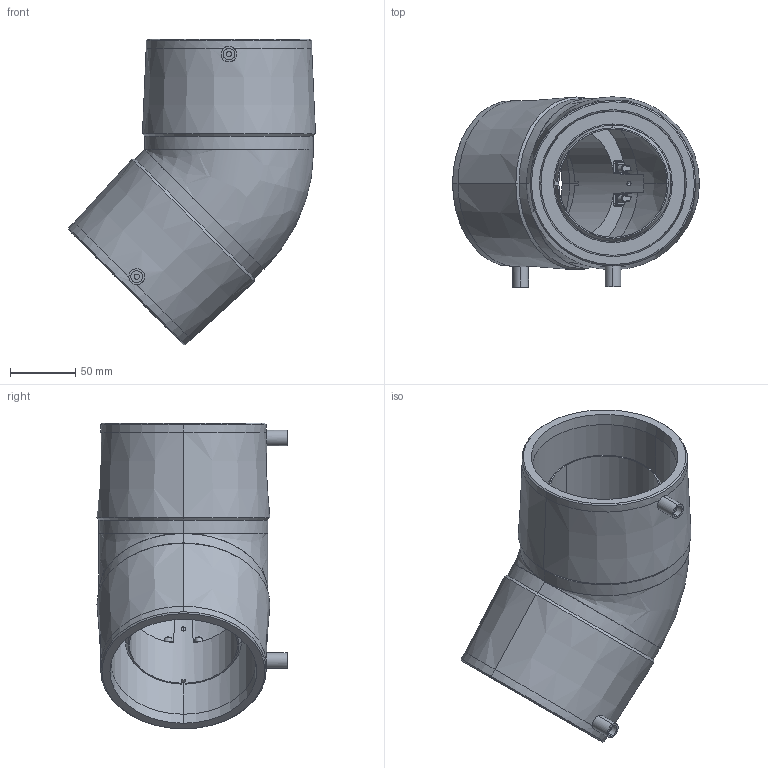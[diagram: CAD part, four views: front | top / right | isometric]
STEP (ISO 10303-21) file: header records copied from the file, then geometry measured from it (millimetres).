
FILE_DESCRIPTION (( 'STEP AP203' ), '1' );
FILE_NAME ('KP_24-110C.step', '2011-08-08T11:37:20', ( '' ), ( '' ), 'SwSTEP 2.0', 'SolidWorks 2011', '' );
FILE_SCHEMA (( 'CONFIG_CONTROL_DESIGN' ));
Length unit declared in the file: millimetre
Products named in the file (1): KP_24-110C
Bounding box: 189.4 x 145.86 x 234.54 mm (x, y, z)
Volume: 906846.7 mm3; surface area: 239400.6 mm2
Topology: 1 solids, 1 shells, 356 faces, 936 edges, 570 vertices
Faces by surface type: cylinder 138, plane 90, torus 42, bspline 42, cone 36, sphere 8
Entity records: 12620 total; most frequent: CARTESIAN_POINT 3982, ORIENTED_EDGE 1848, DIRECTION 1834, EDGE_CURVE 924, AXIS2_PLACEMENT_3D 769, VERTEX_POINT 566, CIRCLE 454, EDGE_LOOP 382
